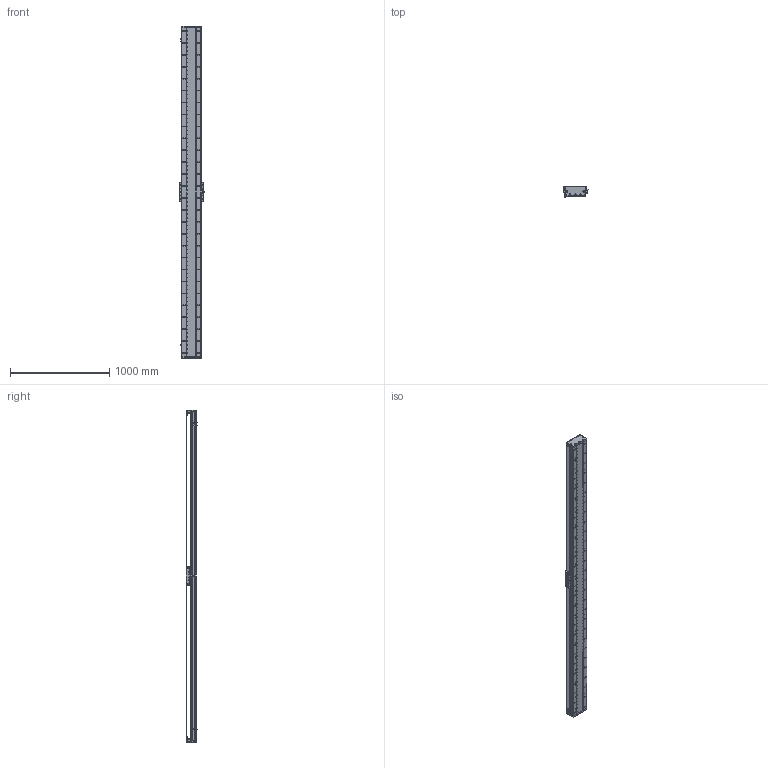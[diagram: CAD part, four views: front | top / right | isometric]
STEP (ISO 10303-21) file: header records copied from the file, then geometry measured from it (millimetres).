
FILE_DESCRIPTION (( 'STEP AP203' ), '1' );
FILE_NAME ('DA-C195-C2-T3060-C010-0.2 眻盄萇儂.STEP', '2025-08-15T01:17:41', ( '' ), ( '' ), 'SwSTEP 2.0', 'SolidWorks 2019', '' );
FILE_SCHEMA (( 'CONFIG_CONTROL_DESIGN' ));
Length unit declared in the file: millimetre
Products named in the file (15): IU-CU195-L 菁釱絳寢; DA195詩湍郪璃; 葩璃 DA95-GT-T-00; DA165-GYP-00 光电感应片(默认); DA195詩湍嶺輸; DA-C195-C2-T3060-C010-0.2 眻盄萇儂; DA95-HXJ-00 遣喳砎蝶; CU195-C2賑輸-俋楷; DA195詩湍菜輸; DA195詩湍裔啣; LMT黍杅芛; MS200 棠掑喜S315-T1740; PM-T45ㄗ侂狟ㄘ; DA-C195-GD-DB-H-00 傷啣; IU-CU195-L-00 菁釱(L3300)
Assembly tree (29 placements, depth 3):
  DA-C195-C2-T3060-C010-0.2 眻盄萇儂
    DA195詩湍郪璃
      DA195詩湍菜輸  x2
      DA195詩湍裔啣
      DA195詩湍嶺輸  x2
      DA95-HXJ-00 遣喳砎蝶  x8
      DA-C195-GD-DB-H-00 傷啣  x2
    IU-CU195-L 菁釱絳寢
      IU-CU195-L-00 菁釱(L3300)
      葩璃 DA95-GT-T-00  x4
    LMT黍杅芛
    MS200 棠掑喜S315-T1740
    PM-T45ㄗ侂狟ㄘ  x3
    DA165-GYP-00 光电感应片(默认)
    CU195-C2賑輸-俋楷
Bounding box: 248 x 115.45 x 3340 mm (x, y, z)
Volume: 18670321.1 mm3; surface area: 5570694.1 mm2
Topology: 66 solids, 130 shells, 4694 faces, 13435 edges, 8503 vertices
Faces by surface type: cylinder 2663, plane 1413, cone 530, torus 52, sphere 36
Entity records: 156497 total; most frequent: CARTESIAN_POINT 44490, ORIENTED_EDGE 23754, DIRECTION 22336, EDGE_CURVE 11877, AXIS2_PLACEMENT_3D 8409, VERTEX_POINT 7705, LINE 5518, VECTOR 5518
